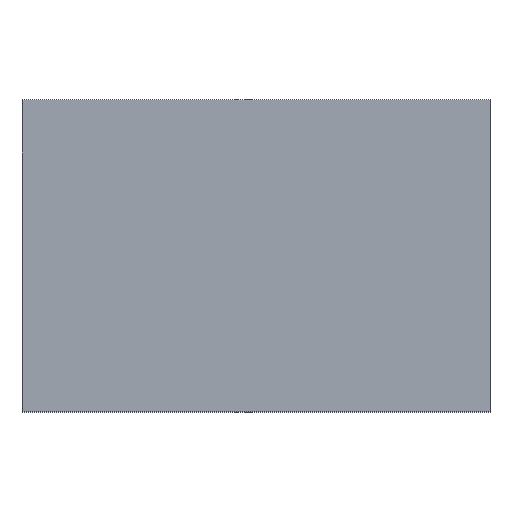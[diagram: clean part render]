
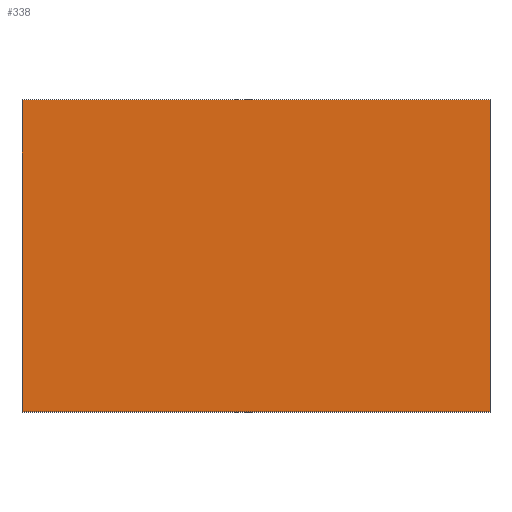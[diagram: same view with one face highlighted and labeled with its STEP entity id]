
A CAD part, top view. The second image highlights one B-rep face of the part: STEP entity #338.
In plain terms, the highlighted planar face has unit normal (0, 0, 1).
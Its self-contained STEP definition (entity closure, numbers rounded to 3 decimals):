
#24 = VERTEX_POINT('',#25);
#25 = CARTESIAN_POINT('',(-6.,57.5,27.5));
#32 = PLANE('',#33);
#33 = AXIS2_PLACEMENT_3D('',#34,#35,#36);
#34 = CARTESIAN_POINT('',(-6.,57.5,22.5));
#35 = DIRECTION('',(1.,0.,0.));
#36 = DIRECTION('',(0.,0.,1.));
#44 = PLANE('',#45);
#45 = AXIS2_PLACEMENT_3D('',#46,#47,#48);
#46 = CARTESIAN_POINT('',(-6.,57.5,22.5));
#47 = DIRECTION('',(0.,1.,0.));
#48 = DIRECTION('',(0.,0.,1.));
#85 = VERTEX_POINT('',#86);
#86 = CARTESIAN_POINT('',(-6.,65.5,27.5));
#100 = PLANE('',#101);
#101 = AXIS2_PLACEMENT_3D('',#102,#103,#104);
#102 = CARTESIAN_POINT('',(-6.,65.5,22.5));
#103 = DIRECTION('',(0.,1.,0.));
#104 = DIRECTION('',(0.,0.,1.));
#112 = EDGE_CURVE('',#24,#85,#113,.T.);
#113 = SURFACE_CURVE('',#114,(#118,#125),.PCURVE_S1.);
#114 = LINE('',#115,#116);
#115 = CARTESIAN_POINT('',(-6.,57.5,27.5));
#116 = VECTOR('',#117,1.);
#117 = DIRECTION('',(0.,1.,0.));
#118 = PCURVE('',#32,#119);
#119 = DEFINITIONAL_REPRESENTATION('',(#120),#124);
#120 = LINE('',#121,#122);
#121 = CARTESIAN_POINT('',(5.,0.));
#122 = VECTOR('',#123,1.);
#123 = DIRECTION('',(0.,-1.));
#124 = ( GEOMETRIC_REPRESENTATION_CONTEXT(2) 
PARAMETRIC_REPRESENTATION_CONTEXT() REPRESENTATION_CONTEXT('2D SPACE',''
  ) );
#125 = PCURVE('',#126,#131);
#126 = PLANE('',#127);
#127 = AXIS2_PLACEMENT_3D('',#128,#129,#130);
#128 = CARTESIAN_POINT('',(-6.,57.5,27.5));
#129 = DIRECTION('',(0.,0.,1.));
#130 = DIRECTION('',(1.,0.,0.));
#131 = DEFINITIONAL_REPRESENTATION('',(#132),#136);
#132 = LINE('',#133,#134);
#133 = CARTESIAN_POINT('',(0.,0.));
#134 = VECTOR('',#135,1.);
#135 = DIRECTION('',(0.,1.));
#136 = ( GEOMETRIC_REPRESENTATION_CONTEXT(2) 
PARAMETRIC_REPRESENTATION_CONTEXT() REPRESENTATION_CONTEXT('2D SPACE',''
  ) );
#144 = VERTEX_POINT('',#145);
#145 = CARTESIAN_POINT('',(6.,57.5,27.5));
#152 = PLANE('',#153);
#153 = AXIS2_PLACEMENT_3D('',#154,#155,#156);
#154 = CARTESIAN_POINT('',(6.,57.5,22.5));
#155 = DIRECTION('',(1.,0.,0.));
#156 = DIRECTION('',(0.,0.,1.));
#195 = VERTEX_POINT('',#196);
#196 = CARTESIAN_POINT('',(6.,65.5,27.5));
#217 = EDGE_CURVE('',#144,#195,#218,.T.);
#218 = SURFACE_CURVE('',#219,(#223,#230),.PCURVE_S1.);
#219 = LINE('',#220,#221);
#220 = CARTESIAN_POINT('',(6.,57.5,27.5));
#221 = VECTOR('',#222,1.);
#222 = DIRECTION('',(0.,1.,0.));
#223 = PCURVE('',#152,#224);
#224 = DEFINITIONAL_REPRESENTATION('',(#225),#229);
#225 = LINE('',#226,#227);
#226 = CARTESIAN_POINT('',(5.,0.));
#227 = VECTOR('',#228,1.);
#228 = DIRECTION('',(0.,-1.));
#229 = ( GEOMETRIC_REPRESENTATION_CONTEXT(2) 
PARAMETRIC_REPRESENTATION_CONTEXT() REPRESENTATION_CONTEXT('2D SPACE',''
  ) );
#230 = PCURVE('',#126,#231);
#231 = DEFINITIONAL_REPRESENTATION('',(#232),#236);
#232 = LINE('',#233,#234);
#233 = CARTESIAN_POINT('',(12.,0.));
#234 = VECTOR('',#235,1.);
#235 = DIRECTION('',(0.,1.));
#236 = ( GEOMETRIC_REPRESENTATION_CONTEXT(2) 
PARAMETRIC_REPRESENTATION_CONTEXT() REPRESENTATION_CONTEXT('2D SPACE',''
  ) );
#263 = EDGE_CURVE('',#24,#144,#264,.T.);
#264 = SURFACE_CURVE('',#265,(#269,#276),.PCURVE_S1.);
#265 = LINE('',#266,#267);
#266 = CARTESIAN_POINT('',(-6.,57.5,27.5));
#267 = VECTOR('',#268,1.);
#268 = DIRECTION('',(1.,0.,0.));
#269 = PCURVE('',#44,#270);
#270 = DEFINITIONAL_REPRESENTATION('',(#271),#275);
#271 = LINE('',#272,#273);
#272 = CARTESIAN_POINT('',(5.,0.));
#273 = VECTOR('',#274,1.);
#274 = DIRECTION('',(0.,1.));
#275 = ( GEOMETRIC_REPRESENTATION_CONTEXT(2) 
PARAMETRIC_REPRESENTATION_CONTEXT() REPRESENTATION_CONTEXT('2D SPACE',''
  ) );
#276 = PCURVE('',#126,#277);
#277 = DEFINITIONAL_REPRESENTATION('',(#278),#282);
#278 = LINE('',#279,#280);
#279 = CARTESIAN_POINT('',(0.,0.));
#280 = VECTOR('',#281,1.);
#281 = DIRECTION('',(1.,0.));
#282 = ( GEOMETRIC_REPRESENTATION_CONTEXT(2) 
PARAMETRIC_REPRESENTATION_CONTEXT() REPRESENTATION_CONTEXT('2D SPACE',''
  ) );
#310 = EDGE_CURVE('',#85,#195,#311,.T.);
#311 = SURFACE_CURVE('',#312,(#316,#323),.PCURVE_S1.);
#312 = LINE('',#313,#314);
#313 = CARTESIAN_POINT('',(-6.,65.5,27.5));
#314 = VECTOR('',#315,1.);
#315 = DIRECTION('',(1.,0.,0.));
#316 = PCURVE('',#100,#317);
#317 = DEFINITIONAL_REPRESENTATION('',(#318),#322);
#318 = LINE('',#319,#320);
#319 = CARTESIAN_POINT('',(5.,0.));
#320 = VECTOR('',#321,1.);
#321 = DIRECTION('',(0.,1.));
#322 = ( GEOMETRIC_REPRESENTATION_CONTEXT(2) 
PARAMETRIC_REPRESENTATION_CONTEXT() REPRESENTATION_CONTEXT('2D SPACE',''
  ) );
#323 = PCURVE('',#126,#324);
#324 = DEFINITIONAL_REPRESENTATION('',(#325),#329);
#325 = LINE('',#326,#327);
#326 = CARTESIAN_POINT('',(0.,8.));
#327 = VECTOR('',#328,1.);
#328 = DIRECTION('',(1.,0.));
#329 = ( GEOMETRIC_REPRESENTATION_CONTEXT(2) 
PARAMETRIC_REPRESENTATION_CONTEXT() REPRESENTATION_CONTEXT('2D SPACE',''
  ) );
#338 = ADVANCED_FACE('',(#339),#126,.T.);
#339 = FACE_BOUND('',#340,.T.);
#340 = EDGE_LOOP('',(#341,#342,#343,#344));
#341 = ORIENTED_EDGE('',*,*,#112,.F.);
#342 = ORIENTED_EDGE('',*,*,#263,.T.);
#343 = ORIENTED_EDGE('',*,*,#217,.T.);
#344 = ORIENTED_EDGE('',*,*,#310,.F.);
